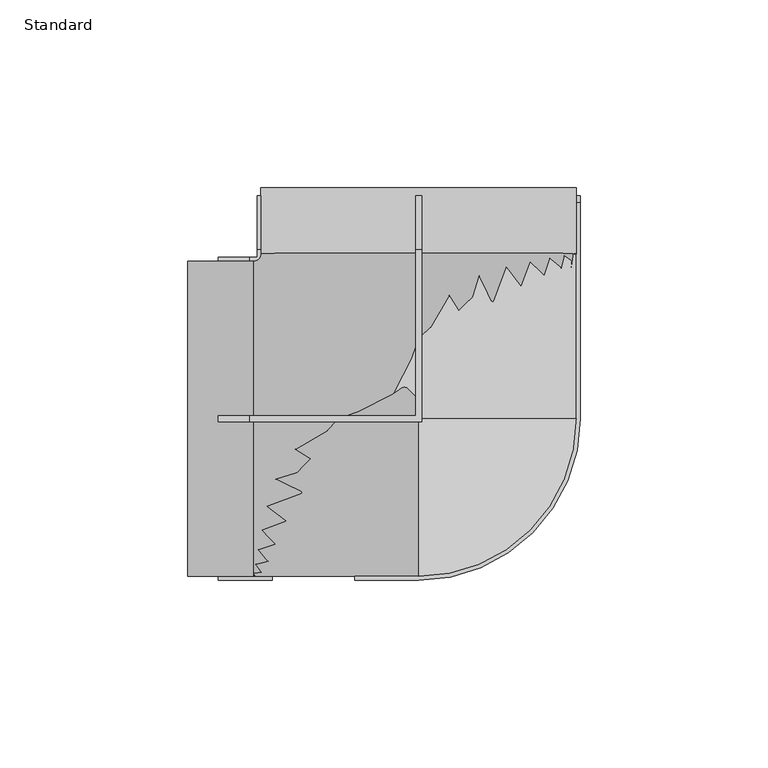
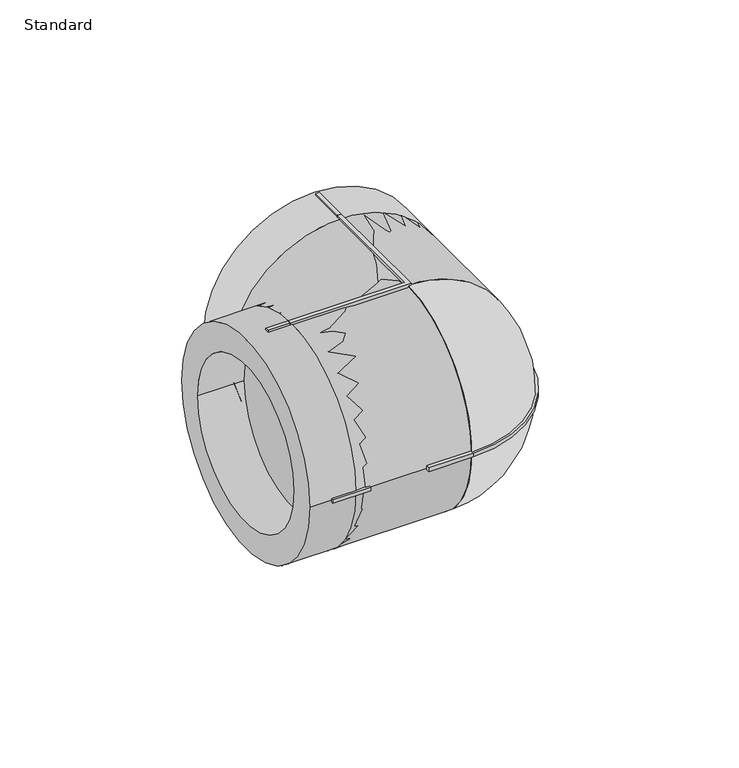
"""IFC4 building model written with IfcOpenShell, lengths in millimetres: pipe fitting geometry, EGB_VASEN_ PPR_Codo 90 WXR200_Codo 45 WXR220  : Standard."""

from ifc_helpers import new_model, si_unit, point, frame, origin, origin_2d, place, context, project, spatial, polyline, circle_curve, ellipse_curve, trimmed, segment, composite_curve, outline, extrude, source, transform, mapped, element, save
from ifc_brep_helpers import plane_surface, cylinder_surface, revolved_surface, advanced_brep


def standard_bcb1940b(model_context):
    return source(origin(), model_context, "Body", "SolidModel", [
        advanced_brep(
        [(0.0, 0.0, -42.0), (0.0, 0.0, 42.0)],
        [
            (0, 1, circle_curve(frame((0.0, 0.0, 0.0), z_axis=(-1.0, 0.0, 0.0), x_axis=(0.0, 1.0, 0.0)), 42.0)),
            (1, 0),
            (1, 0, circle_curve(frame((0.0, 0.0, 0.0), z_axis=(0.0, 1.0, 0.0), x_axis=(-1.0, 0.0, 0.0)), 42.0)),
        ],
        [
            plane_surface(frame((0.0, 0.0, 52.0431585), z_axis=(-1.0, 0.0, 0.0), x_axis=(0.0, -1.0, 0.0))),
            plane_surface(frame((0.0, 0.0, 52.0431585), z_axis=(0.0, 1.0, 0.0), x_axis=(1.0, 0.0, 0.0))),
            revolved_surface(trimmed(ellipse_curve(frame((0.0, 0.0, 0.0), z_axis=(1.0, 0.0, 0.0), x_axis=(0.0, 1.0, 0.0)), 42.0, 42.0), [point((0.0, 0.0, 42.0))], [point((0.0, 0.0, -42.0))], True, "CARTESIAN"), (0.0, 0.0, 52.0431585), (0.0, 0.0, -1.0)),
        ],
        [
            (0, [[1, 2]]),
            (1, [[3, -2]]),
            (2, [[-1, -3]]),
        ],
    ),
        advanced_brep(
        [(-61.5, -42.0, 0.0), (-61.5, 42.0, 0.0), (-61.5, -31.5, 0.0), (-61.5, 31.5, 0.0), (-44.0, -42.0, 0.0), (-44.0, 42.0, 0.0), (-44.0, -31.5, 0.0), (-44.0, 31.5, 0.0), (31.5, 44.0, 0.0), (-31.5, 44.0, 0.0), (-42.0, 44.0, 0.0), (42.0, 44.0, 0.0), (42.0, 61.5, 0.0), (-42.0, 61.5, 0.0), (31.5, 61.5, 0.0), (-31.5, 61.5, 0.0)],
        [
            (0, 1, circle_curve(frame((-61.5, 0.0, 0.0), z_axis=(-1.0, 0.0, 0.0), x_axis=(0.0, 1.0, 0.0)), 42.0)),
            (1, 0, circle_curve(frame((-61.5, 0.0, 0.0), z_axis=(-1.0, 0.0, 0.0), x_axis=(0.0, 1.0, 0.0)), 42.0)),
            (2, 3, circle_curve(frame((-61.5, 0.0, 0.0), z_axis=(1.0, 0.0, 0.0), x_axis=(0.0, 1.0, 0.0)), 31.5)),
            (3, 2, circle_curve(frame((-61.5, 0.0, 0.0), z_axis=(1.0, 0.0, 0.0), x_axis=(0.0, 1.0, 0.0)), 31.5)),
            (0, 4),
            (4, 5, circle_curve(frame((-44.0, 0.0, 0.0), z_axis=(-1.0, 0.0, 0.0), x_axis=(0.0, 1.0, 0.0)), 42.0)),
            (5, 1),
            (5, 4, circle_curve(frame((-44.0, 0.0, 0.0), z_axis=(-1.0, 0.0, 0.0), x_axis=(0.0, 1.0, 0.0)), 42.0)),
            (2, 6),
            (6, 7, circle_curve(frame((-44.0, 0.0, 0.0), z_axis=(1.0, 0.0, 0.0), x_axis=(0.0, 1.0, 0.0)), 31.5)),
            (7, 3),
            (7, 6, circle_curve(frame((-44.0, 0.0, 0.0), z_axis=(1.0, 0.0, 0.0), x_axis=(0.0, 1.0, 0.0)), 31.5)),
            (8, 9, circle_curve(frame((0.0, 44.0, 0.0), z_axis=(0.0, 1.0, 0.0), x_axis=(-1.0, 0.0, 0.0)), 31.5)),
            (9, 8, circle_curve(frame((0.0, 44.0, 0.0), z_axis=(0.0, 1.0, 0.0), x_axis=(-1.0, 0.0, 0.0)), 31.5)),
            (10, 5, circle_curve(frame((-44.0, 44.0, 0.0), z_axis=(0.0, 0.0, -1.0), x_axis=(0.0, -1.0, 0.0)), 2.0)),
            (4, 11, circle_curve(frame((-44.0, 44.0, 0.0), z_axis=(0.0, 0.0, 1.0), x_axis=(0.0, -1.0, 0.0)), 86.0)),
            (11, 10, circle_curve(frame((0.0, 44.0, 0.0), z_axis=(0.0, -1.0, 0.0), x_axis=(-1.0, 0.0, 0.0)), 42.0)),
            (10, 11, circle_curve(frame((0.0, 44.0, 0.0), z_axis=(0.0, -1.0, 0.0), x_axis=(-1.0, 0.0, 0.0)), 42.0)),
            (12, 13, circle_curve(frame((0.0, 61.5, 0.0), z_axis=(0.0, 1.0, 0.0), x_axis=(-1.0, 0.0, 0.0)), 42.0)),
            (13, 12, circle_curve(frame((0.0, 61.5, 0.0), z_axis=(0.0, 1.0, 0.0), x_axis=(-1.0, 0.0, 0.0)), 42.0)),
            (14, 15, circle_curve(frame((0.0, 61.5, 0.0), z_axis=(0.0, -1.0, 0.0), x_axis=(-1.0, 0.0, 0.0)), 31.5)),
            (15, 14, circle_curve(frame((0.0, 61.5, 0.0), z_axis=(0.0, -1.0, 0.0), x_axis=(-1.0, 0.0, 0.0)), 31.5)),
            (13, 10),
            (11, 12),
            (15, 9),
            (8, 14),
        ],
        [
            plane_surface(frame((-61.5, 0.0, 0.0), z_axis=(-1.0, 0.0, 0.0), x_axis=(0.0, 0.0, 1.0))),
            cylinder_surface(frame((-61.5, 0.0, 0.0), z_axis=(-1.0, 0.0, 0.0), x_axis=(0.0, 1.0, 0.0)), 42.0),
            revolved_surface(polyline([(-44.0, 31.5, 0.0), (-61.5, 31.5, 0.0)]), (-61.5, 0.0, 0.0), (1.0, 0.0, 0.0)),
            plane_surface(frame((-44.0, 0.0, 0.0), z_axis=(-1.0, 0.0, 0.0), x_axis=(0.0, 0.0, 1.0))),
            plane_surface(frame((0.0, 44.0, 0.0), z_axis=(0.0, 1.0, 0.0), x_axis=(0.0, 0.0, 1.0))),
            revolved_surface(trimmed(ellipse_curve(frame((-44.0, 0.0, 0.0), z_axis=(-1.0, 0.0, 0.0), x_axis=(0.0, 1.0, 0.0)), 42.0, 42.0), [point((-44.0, -42.0, 0.0))], [point((-44.0, 42.0, 0.0))], True, "CARTESIAN"), (-44.0, 44.0, 0.0), (0.0, 0.0, 1.0)),
            revolved_surface(trimmed(ellipse_curve(frame((-44.0, 0.0, 0.0), z_axis=(-1.0, 0.0, 0.0), x_axis=(0.0, 1.0, 0.0)), 42.0, 42.0), [point((-44.0, 42.0, 0.0))], [point((-44.0, -42.0, 0.0))], True, "CARTESIAN"), (-44.0, 44.0, 0.0), (0.0, 0.0, 1.0)),
            plane_surface(frame((0.0, 61.5, 0.0), z_axis=(0.0, 1.0, 0.0), x_axis=(0.0, 0.0, 1.0))),
            cylinder_surface(frame((0.0, 44.0, 0.0), z_axis=(0.0, -1.0, 0.0), x_axis=(-1.0, 0.0, 0.0)), 42.0),
            revolved_surface(polyline([(-31.5, 61.5, 0.0), (-31.5, 44.0, 0.0)]), (0.0, 44.0, 0.0), (0.0, 1.0, 0.0)),
        ],
        [
            (0, [[1, 2], [3, 4]]),
            (1, [[-1, 5, 6, 7]]),
            (1, [[-2, -7, 8, -5]]),
            (2, [[-3, 9, 10, 11]]),
            (2, [[-4, -11, 12, -9]]),
            (3, [[-10, -12]]),
            (4, [[13, 14]]),
            (5, [[15, -6, 16, 17]]),
            (6, [[-15, 18, -16, -8]]),
            (7, [[19, 20], [21, 22]]),
            (8, [[-20, 23, -17, 24]]),
            (8, [[-19, -24, -18, -23]]),
            (9, [[-22, 25, -13, 26]]),
            (9, [[-21, -26, -14, -25]]),
        ],
    ),
        extrude(outline(composite_curve([segment(polyline([(-17.0, -43.0), (-17.0, -41.0), (0.0, -41.0)]), True, "CONTINUOUS"), segment(trimmed(circle_curve(origin_2d(), 41.0), [point((0.0, -41.0))], [point((41.0, 0.0))], True, "CARTESIAN"), True, "CONTINUOUS"), segment(polyline([(41.0, 0.0), (41.0, 57.5), (43.0, 57.5), (43.0, 0.0)]), True, "CONTINUOUS"), segment(trimmed(circle_curve(origin_2d(), 43.0), [point((43.0, 0.0))], [point((0.0, -43.0))], False, "CARTESIAN"), True, "CONTINUOUS"), segment(polyline([(0.0, -43.0), (-17.0, -43.0)]), True, "CONTINUOUS")], self_intersect=False)), frame((0.0, 0.0, -0.75), z_axis=(0.0, 0.0, 1.0), x_axis=(1.0, 0.0, 0.0)), (0.0, 0.0, 1.0), 1.5),
        extrude(outline(polyline([(-45.0, -0.75), (-45.0, 0.75), (-0.75, 0.75), (-0.75, 45.0), (0.75, 45.0), (0.75, -0.75), (-45.0, -0.75)])), frame((0.0, 0.0, 41.0), z_axis=(0.0, 0.0, 1.0), x_axis=(1.0, 0.0, 0.0)), (0.0, 0.0, 1.0), 2.0),
        extrude(outline(polyline([(-45.0, -0.75), (-45.0, 0.75), (-0.75, 0.75), (-0.75, 45.0), (0.75, 45.0), (0.75, -0.75), (-45.0, -0.75)])), frame((0.0, 0.0, -43.0), z_axis=(0.0, 0.0, 1.0), x_axis=(1.0, 0.0, 0.0)), (0.0, 0.0, 1.0), 2.0),
        extrude(outline(polyline([(-45.0, 41.0), (-45.0, 43.0), (-43.0, 43.0), (-43.0, 45.0), (-41.0, 45.0), (-41.0, 41.0), (-45.0, 41.0)])), frame((0.0, 0.0, -0.75), z_axis=(0.0, 0.0, 1.0), x_axis=(1.0, 0.0, 0.0)), (0.0, 0.0, 1.0), 1.5),
        extrude(outline(composite_curve([segment(trimmed(circle_curve(origin_2d(), 42.0), [point((-42.0, 0.0))], [point((42.0, 0.0))], False, "CARTESIAN"), True, "CONTINUOUS"), segment(trimmed(circle_curve(origin_2d(), 42.0), [point((42.0, 0.0))], [point((-42.0, 0.0))], False, "CARTESIAN"), True, "CONTINUOUS")], self_intersect=False)), frame((-44.0, 0.0, 0.0), z_axis=(1.0, 0.0, 0.0), x_axis=(0.0, 1.0, 0.0)), (0.0, 0.0, 1.0), 44.0),
        extrude(outline(composite_curve([segment(trimmed(circle_curve(origin_2d(), 42.0), [point((0.0, -42.0))], [point((0.0, 42.0))], False, "CARTESIAN"), True, "CONTINUOUS"), segment(trimmed(circle_curve(origin_2d(), 42.0), [point((0.0, 42.0))], [point((0.0, -42.0))], False, "CARTESIAN"), True, "CONTINUOUS")], self_intersect=False)), frame((0.0, 0.0, 0.0), z_axis=(0.0, 1.0, 0.0), x_axis=(0.0, 0.0, 1.0)), (0.0, 0.0, 1.0), 44.0),
        extrude(outline(polyline([(0.75, 45.0), (-0.75, 45.0), (-0.75, 59.4), (0.75, 59.4), (0.75, 45.0)])), frame((0.0, 0.0, 41.0), z_axis=(0.0, 0.0, 1.0), x_axis=(1.0, 0.0, 0.0)), (0.0, 0.0, 1.0), 2.0),
        extrude(outline(polyline([(-41.0, 45.0), (-43.0, 45.0), (-43.0, 59.4), (-41.0, 59.4), (-41.0, 45.0)])), frame((0.0, 0.0, -0.75), z_axis=(0.0, 0.0, 1.0), x_axis=(1.0, 0.0, 0.0)), (0.0, 0.0, 1.0), 1.5),
        extrude(outline(polyline([(43.0, 45.0), (41.0, 45.0), (41.0, 59.4), (43.0, 59.4), (43.0, 45.0)])), frame((0.0, 0.0, -0.75), z_axis=(0.0, 0.0, 1.0), x_axis=(1.0, 0.0, 0.0)), (0.0, 0.0, 1.0), 1.5),
        extrude(outline(polyline([(0.75, 45.0), (-0.75, 45.0), (-0.75, 59.4), (0.75, 59.4), (0.75, 45.0)])), frame((0.0, 0.0, -43.0), z_axis=(0.0, 0.0, 1.0), x_axis=(1.0, 0.0, 0.0)), (0.0, 0.0, 1.0), 2.0),
        extrude(outline(polyline([(-39.0, 0.75), (-39.0, -0.75), (-53.4, -0.75), (-53.4, 0.75), (-39.0, 0.75)])), frame((0.0, 0.0, 41.0), z_axis=(0.0, 0.0, 1.0), x_axis=(1.0, 0.0, 0.0)), (0.0, 0.0, 1.0), 2.0),
        extrude(outline(polyline([(-39.0, 0.75), (-39.0, -0.75), (-53.4, -0.75), (-53.4, 0.75), (-39.0, 0.75)])), frame((0.0, 0.0, -43.0), z_axis=(0.0, 0.0, 1.0), x_axis=(1.0, 0.0, 0.0)), (0.0, 0.0, 1.0), 2.0),
        extrude(outline(polyline([(-39.0, 43.0), (-39.0, 41.0), (-53.4, 41.0), (-53.4, 43.0), (-39.0, 43.0)])), frame((0.0, 0.0, -0.75), z_axis=(0.0, 0.0, 1.0), x_axis=(1.0, 0.0, 0.0)), (0.0, 0.0, 1.0), 1.5),
        extrude(outline(polyline([(-39.0, -41.0), (-39.0, -43.0), (-53.4, -43.0), (-53.4, -41.0), (-39.0, -41.0)])), frame((0.0, 0.0, -0.75), z_axis=(0.0, 0.0, 1.0), x_axis=(1.0, 0.0, 0.0)), (0.0, 0.0, 1.0), 1.5),
    ])


if __name__ == "__main__":
    model = new_model("IFC4")
    model_context = context("Model", 3, world=origin())
    ifc_project = project(units=[si_unit("LENGTHUNIT", "METRE", prefix="MILLI")], contexts=[model_context])
    site = spatial("IfcSite", under=ifc_project)
    building = spatial("IfcBuilding", under=site)
    placement = place(None, origin())
    standard_shape = standard_bcb1940b(model_context)
    element("IfcPipeFitting", 1, ObjectType="EGB_VASEN_ PPR_Codo 90 WXR200_Codo 45 WXR220  : Standard", at=placement, inside=building, context=model_context, shape_type="MappedRepresentation", body=[
        mapped(standard_shape, transform((0.0, 0.0, 0.0), x_axis=(1.0, 0.0, 0.0), y_axis=(0.0, 1.0, 0.0), z_axis=(0.0, 0.0, 1.0))),
    ])
    save(model, "model.ifc")
